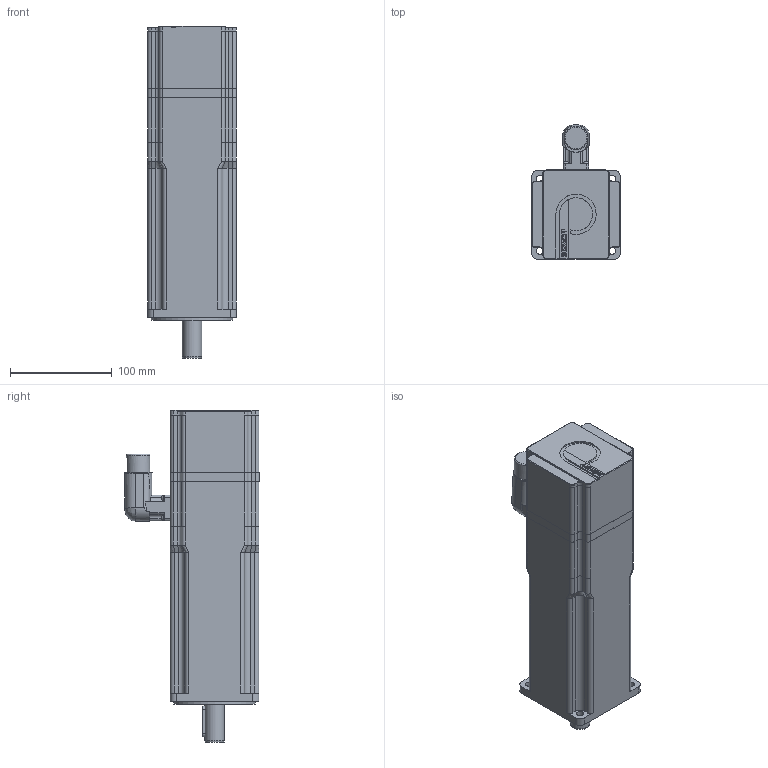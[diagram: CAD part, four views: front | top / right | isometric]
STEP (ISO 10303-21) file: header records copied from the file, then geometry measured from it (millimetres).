
FILE_DESCRIPTION(/* description */ (''),/* implementation_level */ '2;1');
FILE_NAME(/* name */ 'C:\Autodesk Vault\AUTODESK_VAULT\CAD\000-FERTIG Motors\UM-Motoren\UM085\_Gesamtbaugruppen\vereinfachte_Modelle\2020_12_02_AMP0843-xxx0-xxxx.stp',/* time_stamp */ '2020-12-02T16:06:44+01:00',/* author */ ('JoachimH'),/* organization */ ('FERTIG Motors'),/* preprocessor_version */ 'ST-DEVELOPER v18.1',/* originating_system */ 'Autodesk Inventor 2020',/* authorisation */ '');
FILE_SCHEMA (('AUTOMOTIVE_DESIGN { 1 0 10303 214 3 1 1 }'));
Length unit declared in the file: millimetre
Products named in the file (4): UM085-VM-V01; UM085-VM-00; EtherCATP_M23-VM; DIN 6885-A6x6x30
Assembly tree (3 placements, depth 2):
  UM085-VM-V01
    UM085-VM-00
    EtherCATP_M23-VM
    DIN 6885-A6x6x30
Bounding box: 87.1 x 131.45 x 325.5 mm (x, y, z)
Volume: 2032443.6 mm3; surface area: 122188.8 mm2
Topology: 3 solids, 3 shells, 425 faces, 1114 edges, 714 vertices
Faces by surface type: plane 221, cylinder 129, bspline 56, torus 17, cone 2
Full cylindrical faces by diameter (mm): 4.8 x4, 7 x4, 18.4 x1, 19 x1, 20 x2, 20.1 x1, 23 x1, 74 x1, 80 x1
Entity records: 14220 total; most frequent: CARTESIAN_POINT 3234, ORIENTED_EDGE 2220, DIRECTION 2121, EDGE_CURVE 1110, AXIS2_PLACEMENT_3D 716, VERTEX_POINT 714, LINE 689, VECTOR 689
